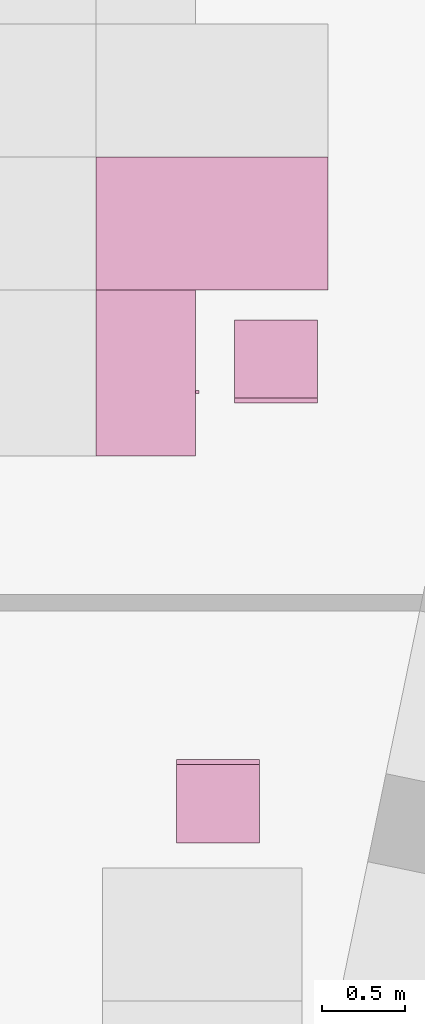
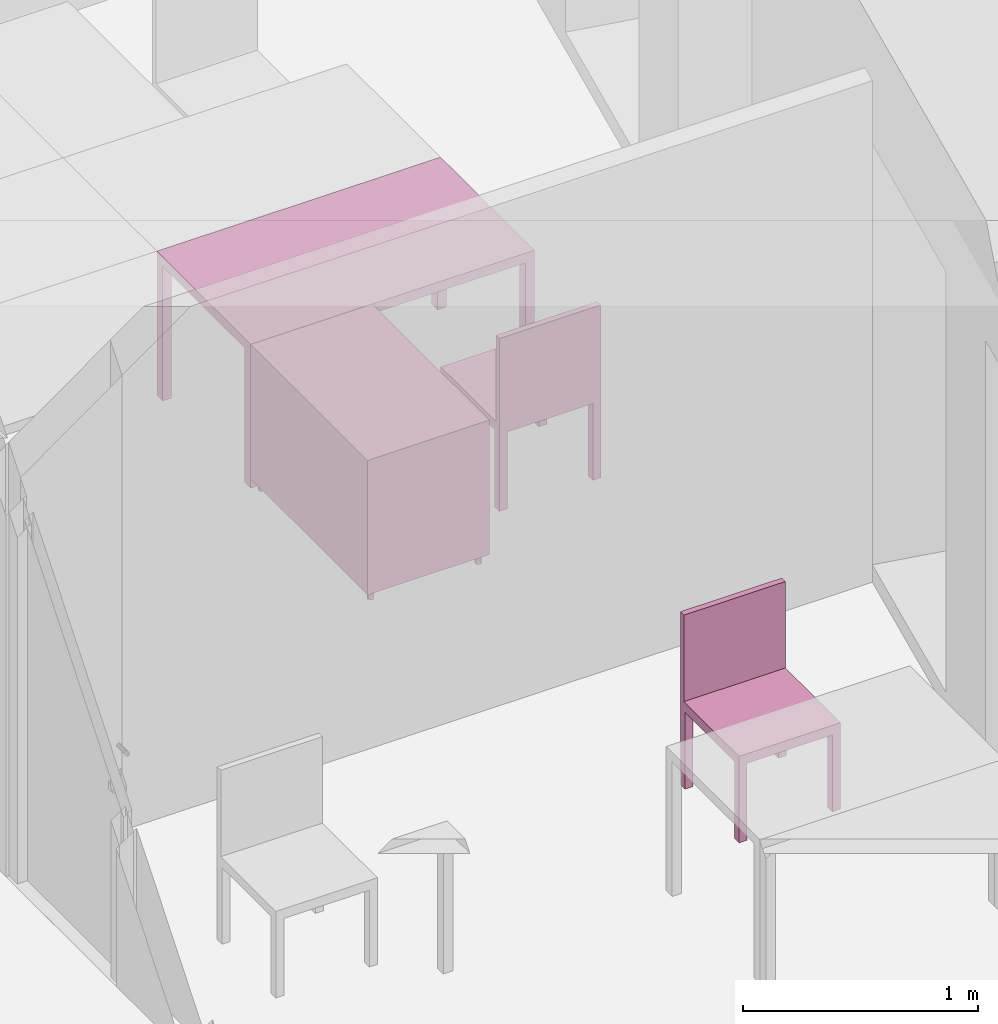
"""IFC4 building model written with IfcOpenShell, lengths in metres."""

import ifcopenshell
import ifcopenshell.guid

model = None  # the IFC model being written
_history = None  # IfcOwnerHistory: only IFC2X3 demands one
_inside = {}  # id of a spatial element -> (the spatial element, [elements in it])
_under = {}  # id of a project, library or spatial element -> (it, [spatial elements below it])
_declared = {}  # id of a project -> (the project, [libraries it declares])
_typed = {}  # id of a type object -> (the type object, [elements of that type])
_made_of = {}  # id of a material, layer set ... -> (it, [elements and type objects made of it])


def new_model(schema):
    """Start an empty IFC model of exactly this schema.

    Asked for "IFC4X3", IfcOpenShell would pick the latest addendum, in which some entities
    have other attributes; the version numbers below select the first issue.
    IFC2X3 requires an IfcOwnerHistory on every rooted entity: one is made here for all.
    """
    global model, _history
    if schema == "IFC4X3":
        model = ifcopenshell.file(schema_version=(4, 3, 0, 0))
    else:
        model = ifcopenshell.file(schema=schema)
    _inside.clear()
    _under.clear()
    _declared.clear()
    _typed.clear()
    _made_of.clear()
    _history = None
    if model.schema == "IFC2X3":
        org = make("IfcOrganization", Name="unknown")
        user = make(
            "IfcPersonAndOrganization",
            ThePerson=make("IfcPerson", FamilyName="unknown"),
            TheOrganization=org,
        )
        app = make(
            "IfcApplication",
            ApplicationDeveloper=org,
            Version="unknown",
            ApplicationFullName="unknown",
            ApplicationIdentifier="unknown",
        )
        _history = make(
            "IfcOwnerHistory",
            OwningUser=user,
            OwningApplication=app,
            ChangeAction="ADDED",
            CreationDate=0,
        )
    return model


def make(cls, **values):
    """One entity of the class cls with the attributes given. An attribute that is None is left unset."""
    return model.create_entity(
        cls, **{name: value for name, value in values.items() if value is not None}
    )


def entity(cls, *values):
    """Any entity or typed value of the class cls, its attributes in the order of the schema. None: left unset."""
    e = model.create_entity(cls)
    for i, value in enumerate(values):
        if value is not None:
            e[i] = value
    return e


def rooted(cls, **values):
    """An entity with a GlobalId (a new one), such as an element, a storey or a relation."""
    return make(cls, GlobalId=ifcopenshell.guid.new(), OwnerHistory=_history, **values)


def si_unit(unit_type, name, prefix=None):
    """IfcSIUnit, for example si_unit("LENGTHUNIT", "METRE", prefix="MILLI")."""
    return make("IfcSIUnit", UnitType=unit_type, Prefix=prefix, Name=name)


def converted_unit(unit_type, name, factor, base, dimensions=None, offset=None):
    """IfcConversionBasedUnit, such as the inch: factor (a typed value) times the base unit."""
    return make(
        "IfcConversionBasedUnit"
        if offset is None
        else "IfcConversionBasedUnitWithOffset",
        ConversionOffset=offset,
        Dimensions=None
        if dimensions is None
        else entity("IfcDimensionalExponents", *dimensions),
        UnitType=unit_type,
        Name=name,
        ConversionFactor=make(
            "IfcMeasureWithUnit", ValueComponent=factor, UnitComponent=base
        ),
    )


def derived_unit(unit_type, elements):
    """IfcDerivedUnit: a product of units, each with its exponent."""
    return make(
        "IfcDerivedUnit",
        Elements=[
            make("IfcDerivedUnitElement", Unit=unit, Exponent=power)
            for unit, power in elements
        ],
        UnitType=unit_type,
    )


def assignment(units):
    """IfcUnitAssignment: the units of a project."""
    return None if units is None else make("IfcUnitAssignment", Units=units)


def point(xyz):
    """IfcCartesianPoint."""
    return None if xyz is None else make("IfcCartesianPoint", Coordinates=xyz)


def direction(xyz):
    """IfcDirection."""
    return None if xyz is None else make("IfcDirection", DirectionRatios=xyz)


def frame(location, z_axis=None, x_axis=None):
    """IfcAxis2Placement3D, a coordinate frame: its origin and axes. An axis left out is left unset."""
    return make(
        "IfcAxis2Placement3D",
        Location=point(location),
        Axis=direction(z_axis),
        RefDirection=direction(x_axis),
    )


def origin():
    """The frame at (0, 0, 0) with its axes left unset."""
    return frame((0.0, 0.0, 0.0))


def place(relative_to, where):
    """IfcLocalPlacement: puts the frame where relative to a parent placement (None: the world)."""
    return make(
        "IfcLocalPlacement", PlacementRelTo=relative_to, RelativePlacement=where
    )


def context(
    kind, dimensions, precision=None, world=None, true_north=None, identifier=None
):
    """IfcGeometricRepresentationContext, for example the 3D "Model" context."""
    return make(
        "IfcGeometricRepresentationContext",
        ContextIdentifier=identifier,
        ContextType=kind,
        CoordinateSpaceDimension=dimensions,
        Precision=precision,
        WorldCoordinateSystem=world,
        TrueNorth=true_north,
    )


def subcontext(parent, identifier, kind, view, scale=None):
    """IfcGeometricRepresentationSubContext, for example "Body" below "Model"."""
    return make(
        "IfcGeometricRepresentationSubContext",
        ContextIdentifier=identifier,
        ContextType=kind,
        ParentContext=parent,
        TargetScale=scale,
        TargetView=view,
    )


def project(units=None, contexts=None):
    """IfcProject with its units and contexts."""
    return rooted(
        "IfcProject",
        Name="project",
        RepresentationContexts=contexts,
        UnitsInContext=assignment(units),
    )


def spatial(cls, under=None, at=None, **own):
    """A site, building, storey or space (cls), placed at a placement, below another one or the project."""
    s = rooted(cls, ObjectPlacement=at, **own)
    if under is not None:
        _under.setdefault(under.id(), (under, []))[1].append(s)
    return s


def faces_of(points, faces, orient=None, outer=None):
    """IfcFace entities. A face is a list of loops; a loop is a list of indices into points, from 0.

    orient and outer hold one flag for each loop. By default every Orientation is true, the
    first loop of a face is its IfcFaceOuterBound and the others are IfcFaceBound.
    """
    made = []
    for i, loops in enumerate(faces):
        bounds = []
        for j, loop in enumerate(loops):
            is_outer = j == 0 if outer is None else outer[i][j]
            bounds.append(
                make(
                    "IfcFaceOuterBound" if is_outer else "IfcFaceBound",
                    Bound=make("IfcPolyLoop", Polygon=[points[k] for k in loop]),
                    Orientation=True if orient is None else orient[i][j],
                )
            )
        made.append(make("IfcFace", Bounds=bounds))
    return made


def faceted_brep(points, faces, orient=None, outer=None, voids=None):
    """IfcFacetedBrep: a solid bounded by flat faces; with voids (closed shells), ...WithVoids."""
    shared = [point(p) for p in points]
    hull = make("IfcClosedShell", CfsFaces=faces_of(shared, faces, orient, outer))
    if voids is None:
        return make("IfcFacetedBrep", Outer=hull)
    return make(
        "IfcFacetedBrepWithVoids",
        Outer=hull,
        Voids=[
            make(cls, CfsFaces=faces_of(shared, fs, o, b)) for cls, fs, o, b in voids
        ],
    )


def shape(context_of_items, identifier, shape_type, items):
    """IfcShapeRepresentation: the items that make up one representation, for example the "Body"."""
    return make(
        "IfcShapeRepresentation",
        ContextOfItems=context_of_items,
        RepresentationIdentifier=identifier,
        RepresentationType=shape_type,
        Items=items,
    )


def made_of(thing, what):
    """Note that an element or type object is made of a material, layer set ...; save() writes the relation."""
    if what is not None:
        _made_of.setdefault(what.id(), (what, []))[1].append(thing)
    return thing


def element(
    cls,
    number,
    at=None,
    inside=None,
    cuts=None,
    type_object=None,
    material=None,
    context=None,
    identifier="Body",
    shape_type=None,
    held_by="IfcProductDefinitionShape",
    body=None,
    shapes=None,
    **own,
):
    """One element of the class cls, such as IfcWall. Its Tag is "e" and its number.

    at: its placement. inside: the storey or other place that contains it. cuts: it is an
    opening in that element (IfcRelVoidsElement). A single representation is given by context,
    identifier, shape_type and body (its items); several are given by shapes. held_by: the class
    of the entity that holds the representations. save() writes the other relations.
    """
    e = rooted(cls, Tag="e%d" % number, ObjectPlacement=at, **own)
    if body is not None:
        shapes = [shape(context, identifier, shape_type, body)]
    if shapes is not None:
        e.Representation = make(held_by, Representations=shapes)
    if inside is not None:
        _inside.setdefault(inside.id(), (inside, []))[1].append(e)
    if cuts is not None:
        rooted(
            "IfcRelVoidsElement", RelatingBuildingElement=cuts, RelatedOpeningElement=e
        )
    if type_object is not None:
        _typed.setdefault(type_object.id(), (type_object, []))[1].append(e)
    return made_of(e, material)


def aggregate(whole, parts):
    """IfcRelAggregates: a whole, such as a stair, and the parts it consists of."""
    return rooted("IfcRelAggregates", RelatingObject=whole, RelatedObjects=parts)


def save(model, path):
    """Write the relations noted so far, then the file.

    IfcRelAggregates (storeys below a building ...), IfcRelContainedInSpatialStructure (elements
    in a storey), IfcRelDefinesByType, IfcRelAssociatesMaterial and IfcRelDeclares: one each for
    every whole, place, type object, material and project.
    """
    for whole, parts in _under.values():
        aggregate(whole, parts)
    for where, things in _inside.values():
        rooted(
            "IfcRelContainedInSpatialStructure",
            RelatedElements=things,
            RelatingStructure=where,
        )
    for kind, things in _typed.values():
        rooted("IfcRelDefinesByType", RelatedObjects=things, RelatingType=kind)
    for what, things in _made_of.values():
        rooted("IfcRelAssociatesMaterial", RelatedObjects=things, RelatingMaterial=what)
    for by, libraries in _declared.values():
        rooted("IfcRelDeclares", RelatingContext=by, RelatedDefinitions=libraries)
    model.write(path)


model = new_model("IFC4")

# Units and contexts
model_context = context("Model", 3, precision=1e-05, world=origin())
body_context = subcontext(model_context, "Body", "Model", "MODEL_VIEW")
ifc_project = project(units=[si_unit("LENGTHUNIT", "METRE"), si_unit("AREAUNIT", "SQUARE_METRE"), si_unit("VOLUMEUNIT", "CUBIC_METRE"), si_unit("MASSUNIT", "GRAM", prefix="KILO"), converted_unit("PLANEANGLEUNIT", "DEGREE", entity("IfcPlaneAngleMeasure", 0.0174532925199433), si_unit("PLANEANGLEUNIT", "RADIAN"), dimensions=[0, 0, 0, 0, 0, 0, 0]), derived_unit("THERMALTRANSMITTANCEUNIT", [(si_unit("POWERUNIT", "WATT"), 1), (si_unit("THERMODYNAMICTEMPERATUREUNIT", "KELVIN"), -1), (si_unit("LENGTHUNIT", "METRE"), -2)]), derived_unit("VOLUMETRICFLOWRATEUNIT", [(si_unit("LENGTHUNIT", "METRE"), 3), (converted_unit("TIMEUNIT", "hour", entity("IfcTimeMeasure", 3600.0), si_unit("TIMEUNIT", "SECOND"), dimensions=[0, 0, 1, 0, 0, 0, 0]), -1), (si_unit("LENGTHUNIT", "METRE"), -1)])], contexts=[model_context])

# Building, storeys
building_placement = place(None, origin())
building = spatial("IfcBuilding", under=ifc_project, at=building_placement, Name="HABITATGE PLURIFAMILIAR", CompositionType="ELEMENT")
storey_1_placement = place(building_placement, frame((0.0, 0.0, 6.25)))
storey_1 = spatial("IfcBuildingStorey", under=building, at=storey_1_placement, Name="PLANTA PRIMERA", CompositionType="ELEMENT", Elevation=6.25)
storey_2_placement = place(storey_1_placement, frame((0.0, 0.0, 3.35)))
storey_2 = spatial("IfcBuildingStorey", under=storey_1, at=storey_2_placement, Name="NOU", CompositionType="PARTIAL")

# Furniture
furniture_1_placement = place(storey_2_placement, frame((423.753213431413, 24.6290818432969, -3.35)))
element("IfcFurniture", 1, at=furniture_1_placement, inside=storey_2, Name="Taula 140X80_P1", context=body_context, shape_type="Brep", body=[
    faceted_brep([(1.35357768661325, 0.750069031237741, 0.0), (1.39732768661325, 0.750069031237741, 0.0), (1.39732768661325, 0.800069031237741, 0.0), (1.35357768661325, 0.800069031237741, 0.0), (1.35357768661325, 0.800069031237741, 0.7), (1.39732768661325, 0.800069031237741, 0.7), (1.39732768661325, 0.750069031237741, 0.7), (1.35357768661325, 0.750069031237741, 0.7)], [[[0, 1, 2, 3]], [[4, 5, 6, 7]], [[3, 4, 7, 0]], [[2, 5, 4, 3]], [[1, 6, 5, 2]], [[0, 7, 6, 1]]], orient=[[False], [False], [False], [False], [False], [False]]),
    faceted_brep([(1.35357768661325, 0.0, 0.0), (1.39732768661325, 0.0, 0.0), (1.39732768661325, 0.05, 0.0), (1.35357768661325, 0.05, 0.0), (1.35357768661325, 0.05, 0.7), (1.39732768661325, 0.05, 0.7), (1.39732768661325, 0.0, 0.7), (1.35357768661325, 0.0, 0.7)], [[[0, 1, 2, 3]], [[4, 5, 6, 7]], [[3, 4, 7, 0]], [[2, 5, 4, 3]], [[1, 6, 5, 2]], [[0, 7, 6, 1]]], orient=[[False], [False], [False], [False], [False], [False]]),
    faceted_brep([(0.0, 0.0, 0.7), (1.39732768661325, 0.0, 0.7), (1.39732768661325, 0.800069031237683, 0.7), (0.0, 0.800069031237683, 0.7), (0.0, 0.800069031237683, 0.75), (1.39732768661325, 0.800069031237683, 0.75), (1.39732768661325, 0.0, 0.75), (0.0, 0.0, 0.75)], [[[0, 1, 2, 3]], [[4, 5, 6, 7]], [[3, 4, 7, 0]], [[2, 5, 4, 3]], [[1, 6, 5, 2]], [[0, 7, 6, 1]]], orient=[[False], [False], [False], [False], [False], [False]]),
    faceted_brep([(0.0, 0.750069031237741, 0.0), (0.04375, 0.750069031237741, 0.0), (0.04375, 0.800069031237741, 0.0), (0.0, 0.800069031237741, 0.0), (0.0, 0.800069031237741, 0.7), (0.04375, 0.800069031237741, 0.7), (0.04375, 0.750069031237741, 0.7), (0.0, 0.750069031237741, 0.7)], [[[0, 1, 2, 3]], [[4, 5, 6, 7]], [[3, 4, 7, 0]], [[2, 5, 4, 3]], [[1, 6, 5, 2]], [[0, 7, 6, 1]]], orient=[[False], [False], [False], [False], [False], [False]]),
    faceted_brep([(0.0, 0.0, 0.0), (0.04375, 0.0, 0.0), (0.04375, 0.05, 0.0), (0.0, 0.05, 0.0), (0.0, 0.05, 0.7), (0.04375, 0.05, 0.7), (0.04375, 0.0, 0.7), (0.0, 0.0, 0.7)], [[[0, 1, 2, 3]], [[4, 5, 6, 7]], [[3, 4, 7, 0]], [[2, 5, 4, 3]], [[1, 6, 5, 2]], [[0, 7, 6, 1]]], orient=[[False], [False], [False], [False], [False], [False]]),
])
furniture_2_placement = place(storey_2_placement, frame((423.753213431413, 23.6321359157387, -3.35)))
element("IfcFurniture", 2, at=furniture_2_placement, inside=storey_2, Name="Taula 100X60_P1", context=body_context, shape_type="Brep", body=[
    faceted_brep([(0.0, 1.00000000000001, 0.05), (0.600000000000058, 1.00000000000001, 0.05), (0.600000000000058, 1.00000000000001, 0.07), (0.0, 1.00000000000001, 0.07), (0.600000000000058, 0.0, 0.05), (0.600000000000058, 0.0, 0.07), (0.0, 0.0, 0.05), (0.0, 0.0, 0.07)], [[[0, 1, 2, 3]], [[1, 4, 5, 2]], [[4, 6, 7, 5]], [[6, 0, 3, 7]], [[0, 6, 4, 1]], [[3, 2, 5, 7]]], orient=[[False], [False], [False], [False], [False], [False]]),
    faceted_brep([(0.580000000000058, 1.00000000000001, 0.35), (0.0, 1.00000000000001, 0.35), (0.0, 0.0, 0.35), (0.580000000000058, 0.0, 0.35), (0.0, 1.00000000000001, 0.37), (0.580000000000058, 1.00000000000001, 0.37), (0.580000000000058, 0.0, 0.37), (0.0, 0.0, 0.37)], [[[0, 1, 2, 3]], [[4, 5, 6, 7]], [[1, 0, 5, 4]], [[2, 1, 4, 7]], [[3, 2, 7, 6]], [[0, 3, 6, 5]]], orient=[[False], [False], [False], [False], [False], [False]]),
    faceted_brep([(0.580000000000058, 0.490000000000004, 0.75), (0.580000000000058, 0.490000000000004, 0.05), (0.600000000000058, 0.490000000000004, 0.05), (0.600000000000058, 0.490000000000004, 0.75), (0.580000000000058, 0.0, 0.05), (0.600000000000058, 0.0, 0.05), (0.580000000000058, 0.0, 0.75), (0.600000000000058, 0.0, 0.75)], [[[0, 1, 2, 3]], [[1, 4, 5, 2]], [[4, 6, 7, 5]], [[6, 0, 3, 7]], [[0, 6, 4, 1]], [[3, 2, 5, 7]]], orient=[[False], [False], [False], [False], [False], [False]]),
    faceted_brep([(0.0, 0.980000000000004, 0.75), (0.0, 0.980000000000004, 0.0499999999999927), (0.0, 1.0, 0.0499999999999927), (0.0, 1.0, 0.75), (0.600000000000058, 0.980000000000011, 0.05), (0.600000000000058, 1.00000000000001, 0.05), (0.600000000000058, 0.980000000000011, 0.75), (0.600000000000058, 1.00000000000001, 0.75)], [[[0, 1, 2, 3]], [[1, 4, 5, 2]], [[4, 6, 7, 5]], [[6, 0, 3, 7]], [[0, 6, 4, 1]], [[3, 2, 5, 7]]], orient=[[False], [False], [False], [False], [False], [False]]),
    faceted_brep([(0.0, 0.470000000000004, 0.75), (0.0, 0.470000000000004, 0.0499999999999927), (0.0, 0.490000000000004, 0.0499999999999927), (0.0, 0.490000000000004, 0.75), (0.600000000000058, 0.470000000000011, 0.05), (0.600000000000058, 0.490000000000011, 0.05), (0.600000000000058, 0.470000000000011, 0.75), (0.600000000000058, 0.490000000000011, 0.75)], [[[0, 1, 2, 3]], [[1, 4, 5, 2]], [[4, 6, 7, 5]], [[6, 0, 3, 7]], [[0, 6, 4, 1]], [[3, 2, 5, 7]]], orient=[[False], [False], [False], [False], [False], [False]]),
    faceted_brep([(0.0, 0.47, 0.75000000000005), (0.0, 0.47, 0.0499999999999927), (0.0, 0.490000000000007, 0.0499999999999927), (0.0, 0.490000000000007, 0.75000000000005), (0.58, 0.469999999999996, 0.0499999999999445), (0.58, 0.490000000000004, 0.0499999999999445), (0.580000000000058, 0.469999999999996, 0.750000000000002), (0.580000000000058, 0.490000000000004, 0.750000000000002)], [[[0, 1, 2, 3]], [[1, 4, 5, 2]], [[4, 6, 7, 5]], [[6, 0, 3, 7]], [[0, 6, 4, 1]], [[3, 2, 5, 7]]], orient=[[False], [False], [False], [False], [False], [False]]),
    faceted_brep([(0.0, 0.0, 0.75), (0.0, 0.0, 0.0499999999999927), (0.0, 0.0200000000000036, 0.0499999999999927), (0.0, 0.0200000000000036, 0.75), (0.600000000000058, 0.0, 0.05), (0.600000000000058, 0.0200000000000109, 0.05), (0.600000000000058, 0.0, 0.75), (0.600000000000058, 0.0200000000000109, 0.75)], [[[0, 1, 2, 3]], [[1, 4, 5, 2]], [[4, 6, 7, 5]], [[6, 0, 3, 7]], [[0, 6, 4, 1]], [[3, 2, 5, 7]]], orient=[[False], [False], [False], [False], [False], [False]]),
    faceted_brep([(0.0, 1.00000000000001, 0.73), (0.600000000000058, 1.00000000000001, 0.73), (0.600000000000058, 1.00000000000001, 0.75), (0.0, 1.00000000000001, 0.75), (0.600000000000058, 0.0, 0.73), (0.600000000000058, 0.0, 0.75), (0.0, 0.0, 0.73), (0.0, 0.0, 0.75)], [[[0, 1, 2, 3]], [[1, 4, 5, 2]], [[4, 6, 7, 5]], [[6, 0, 3, 7]], [[0, 6, 4, 1]], [[3, 2, 5, 7]]], orient=[[False], [False], [False], [False], [False], [False]]),
    faceted_brep([(0.0, 0.980000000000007, 0.75), (0.0, 0.980000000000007, 0.05), (0.0200000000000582, 0.980000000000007, 0.05), (0.0200000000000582, 0.980000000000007, 0.75), (0.0, 0.0, 0.05), (0.0200000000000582, 0.0, 0.05), (0.0, 0.0, 0.75), (0.0200000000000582, 0.0, 0.75)], [[[0, 1, 2, 3]], [[1, 4, 5, 2]], [[4, 6, 7, 5]], [[6, 0, 3, 7]], [[0, 6, 4, 1]], [[3, 2, 5, 7]]], orient=[[False], [False], [False], [False], [False], [False]]),
    faceted_brep([(0.600000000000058, 0.37442032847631, 0.35), (0.620000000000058, 0.37442032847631, 0.35), (0.620000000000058, 0.39442032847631, 0.35), (0.600000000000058, 0.39442032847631, 0.35), (0.600000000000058, 0.39442032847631, 0.45), (0.620000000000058, 0.39442032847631, 0.45), (0.620000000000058, 0.37442032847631, 0.45), (0.600000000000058, 0.37442032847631, 0.45)], [[[0, 1, 2, 3]], [[4, 5, 6, 7]], [[3, 4, 7, 0]], [[2, 5, 4, 3]], [[1, 6, 5, 2]], [[0, 7, 6, 1]]], orient=[[False], [False], [False], [False], [False], [False]]),
    faceted_brep([(0.0361788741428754, 0.950063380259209, 0.0), (0.0387728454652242, 0.950290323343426, 0.0), (0.0412880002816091, 0.950964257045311, 0.0), (0.0436479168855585, 0.95206470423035, 0.0), (0.0457808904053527, 0.953558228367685, 0.0), (0.0476221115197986, 0.955399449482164, 0.0), (0.0491156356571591, 0.957532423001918, 0.0), (0.0502160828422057, 0.959892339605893, 0.0), (0.0508900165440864, 0.962407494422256, 0.0), (0.0511169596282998, 0.96500146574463, 0.0), (0.0508900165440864, 0.967595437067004, 0.0), (0.0502160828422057, 0.970110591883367, 0.0), (0.0491156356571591, 0.972470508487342, 0.0), (0.0476221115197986, 0.974603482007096, 0.0), (0.0457808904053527, 0.976444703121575, 0.0), (0.0436479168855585, 0.97793822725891, 0.0), (0.0412880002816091, 0.979038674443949, 0.0), (0.0387728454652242, 0.979712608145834, 0.0), (0.0361788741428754, 0.979939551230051, 0.0), (0.0335849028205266, 0.979712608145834, 0.0), (0.0310697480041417, 0.979038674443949, 0.0), (0.0287098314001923, 0.97793822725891, 0.0), (0.0265768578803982, 0.976444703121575, 0.0), (0.0247356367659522, 0.974603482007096, 0.0), (0.0232421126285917, 0.972470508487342, 0.0), (0.0221416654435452, 0.970110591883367, 0.0), (0.0214677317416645, 0.967595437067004, 0.0), (0.021240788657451, 0.96500146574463, 0.0), (0.0214677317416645, 0.962407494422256, 0.0), (0.0221416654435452, 0.959892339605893, 0.0), (0.0232421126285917, 0.957532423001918, 0.0), (0.0247356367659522, 0.955399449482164, 0.0), (0.0265768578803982, 0.953558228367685, 0.0), (0.0287098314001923, 0.95206470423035, 0.0), (0.0310697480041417, 0.950964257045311, 0.0), (0.0335849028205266, 0.950290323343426, 0.0), (0.0361788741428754, 0.950063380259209, 0.05), (0.0335849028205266, 0.950290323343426, 0.05), (0.0310697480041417, 0.950964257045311, 0.05), (0.0287098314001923, 0.95206470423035, 0.05), (0.0265768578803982, 0.953558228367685, 0.05), (0.0247356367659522, 0.955399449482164, 0.05), (0.0232421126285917, 0.957532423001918, 0.05), (0.0221416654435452, 0.959892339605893, 0.05), (0.0214677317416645, 0.962407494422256, 0.05), (0.021240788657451, 0.96500146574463, 0.05), (0.0214677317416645, 0.967595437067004, 0.05), (0.0221416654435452, 0.970110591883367, 0.05), (0.0232421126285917, 0.972470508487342, 0.05), (0.0247356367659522, 0.974603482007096, 0.05), (0.0265768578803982, 0.976444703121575, 0.05), (0.0287098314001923, 0.97793822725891, 0.05), (0.0310697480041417, 0.979038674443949, 0.05), (0.0335849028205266, 0.979712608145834, 0.05), (0.0361788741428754, 0.979939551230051, 0.05), (0.0387728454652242, 0.979712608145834, 0.05), (0.0412880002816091, 0.979038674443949, 0.05), (0.0436479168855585, 0.97793822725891, 0.05), (0.0457808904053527, 0.976444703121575, 0.05), (0.0476221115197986, 0.974603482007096, 0.05), (0.0491156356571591, 0.972470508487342, 0.05), (0.0502160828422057, 0.970110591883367, 0.05), (0.0508900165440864, 0.967595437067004, 0.05), (0.0511169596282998, 0.96500146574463, 0.05), (0.0508900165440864, 0.962407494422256, 0.05), (0.0502160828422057, 0.959892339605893, 0.05), (0.0491156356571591, 0.957532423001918, 0.05), (0.0476221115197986, 0.955399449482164, 0.05), (0.0457808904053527, 0.953558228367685, 0.05), (0.0436479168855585, 0.95206470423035, 0.05), (0.0412880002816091, 0.950964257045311, 0.05), (0.0387728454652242, 0.950290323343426, 0.05)], [[[0, 1, 2, 3, 4, 5, 6, 7, 8, 9, 10, 11, 12, 13, 14, 15, 16, 17, 18, 19, 20, 21, 22, 23, 24, 25, 26, 27, 28, 29, 30, 31, 32, 33, 34, 35]], [[36, 37, 38, 39, 40, 41, 42, 43, 44, 45, 46, 47, 48, 49, 50, 51, 52, 53, 54, 55, 56, 57, 58, 59, 60, 61, 62, 63, 64, 65, 66, 67, 68, 69, 70, 71]], [[1, 0, 36, 71]], [[2, 1, 71, 70]], [[3, 2, 70, 69]], [[4, 3, 69, 68]], [[5, 4, 68, 67]], [[6, 5, 67, 66]], [[7, 6, 66, 65]], [[8, 7, 65, 64]], [[9, 8, 64, 63]], [[10, 9, 63, 62]], [[11, 10, 62, 61]], [[12, 11, 61, 60]], [[13, 12, 60, 59]], [[14, 13, 59, 58]], [[15, 14, 58, 57]], [[16, 15, 57, 56]], [[17, 16, 56, 55]], [[18, 17, 55, 54]], [[19, 18, 54, 53]], [[20, 19, 53, 52]], [[21, 20, 52, 51]], [[22, 21, 51, 50]], [[23, 22, 50, 49]], [[24, 23, 49, 48]], [[25, 24, 48, 47]], [[26, 25, 47, 46]], [[27, 26, 46, 45]], [[28, 27, 45, 44]], [[29, 28, 44, 43]], [[30, 29, 43, 42]], [[31, 30, 42, 41]], [[32, 31, 41, 40]], [[33, 32, 40, 39]], [[34, 33, 39, 38]], [[35, 34, 38, 37]], [[0, 35, 37, 36]]], orient=[[False], [False], [False], [False], [False], [False], [False], [False], [False], [False], [False], [False], [False], [False], [False], [False], [False], [False], [False], [False], [False], [False], [False], [False], [False], [False], [False], [False], [False], [False], [False], [False], [False], [False], [False], [False], [False], [False]]),
    faceted_brep([(0.566178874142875, 0.950063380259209, 0.0), (0.568772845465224, 0.95029032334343, 0.0), (0.571288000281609, 0.950964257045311, 0.0), (0.573647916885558, 0.95206470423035, 0.0), (0.575780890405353, 0.953558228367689, 0.0), (0.577622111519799, 0.955399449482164, 0.0), (0.579115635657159, 0.957532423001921, 0.0), (0.580216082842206, 0.959892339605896, 0.0), (0.580890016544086, 0.962407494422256, 0.0), (0.5811169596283, 0.965001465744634, 0.0), (0.580890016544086, 0.967595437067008, 0.0), (0.580216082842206, 0.970110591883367, 0.0), (0.579115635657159, 0.972470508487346, 0.0), (0.577622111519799, 0.9746034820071, 0.0), (0.575780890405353, 0.976444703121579, 0.0), (0.573647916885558, 0.97793822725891, 0.0), (0.571288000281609, 0.979038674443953, 0.0), (0.568772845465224, 0.979712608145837, 0.0), (0.566178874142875, 0.979939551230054, 0.0), (0.563584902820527, 0.979712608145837, 0.0), (0.561069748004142, 0.979038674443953, 0.0), (0.558709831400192, 0.97793822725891, 0.0), (0.556576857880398, 0.976444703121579, 0.0), (0.554735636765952, 0.9746034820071, 0.0), (0.553242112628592, 0.972470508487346, 0.0), (0.552141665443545, 0.970110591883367, 0.0), (0.551467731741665, 0.967595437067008, 0.0), (0.551240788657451, 0.965001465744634, 0.0), (0.551467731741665, 0.962407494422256, 0.0), (0.552141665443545, 0.959892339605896, 0.0), (0.553242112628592, 0.957532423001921, 0.0), (0.554735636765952, 0.955399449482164, 0.0), (0.556576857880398, 0.953558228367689, 0.0), (0.558709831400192, 0.95206470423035, 0.0), (0.561069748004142, 0.950964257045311, 0.0), (0.563584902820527, 0.95029032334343, 0.0), (0.566178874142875, 0.950063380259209, 0.05), (0.563584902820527, 0.95029032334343, 0.05), (0.561069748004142, 0.950964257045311, 0.05), (0.558709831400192, 0.95206470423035, 0.05), (0.556576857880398, 0.953558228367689, 0.05), (0.554735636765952, 0.955399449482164, 0.05), (0.553242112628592, 0.957532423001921, 0.05), (0.552141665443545, 0.959892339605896, 0.05), (0.551467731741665, 0.962407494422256, 0.05), (0.551240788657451, 0.965001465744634, 0.05), (0.551467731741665, 0.967595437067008, 0.05), (0.552141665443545, 0.970110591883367, 0.05), (0.553242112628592, 0.972470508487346, 0.05), (0.554735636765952, 0.9746034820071, 0.05), (0.556576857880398, 0.976444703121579, 0.05), (0.558709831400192, 0.97793822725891, 0.05), (0.561069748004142, 0.979038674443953, 0.05), (0.563584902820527, 0.979712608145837, 0.05), (0.566178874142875, 0.979939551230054, 0.05), (0.568772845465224, 0.979712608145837, 0.05), (0.571288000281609, 0.979038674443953, 0.05), (0.573647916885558, 0.97793822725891, 0.05), (0.575780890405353, 0.976444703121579, 0.05), (0.577622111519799, 0.9746034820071, 0.05), (0.579115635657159, 0.972470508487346, 0.05), (0.580216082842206, 0.970110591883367, 0.05), (0.580890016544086, 0.967595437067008, 0.05), (0.5811169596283, 0.965001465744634, 0.05), (0.580890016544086, 0.962407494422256, 0.05), (0.580216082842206, 0.959892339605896, 0.05), (0.579115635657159, 0.957532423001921, 0.05), (0.577622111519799, 0.955399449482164, 0.05), (0.575780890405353, 0.953558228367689, 0.05), (0.573647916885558, 0.95206470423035, 0.05), (0.571288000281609, 0.950964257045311, 0.05), (0.568772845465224, 0.95029032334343, 0.05)], [[[0, 1, 2, 3, 4, 5, 6, 7, 8, 9, 10, 11, 12, 13, 14, 15, 16, 17, 18, 19, 20, 21, 22, 23, 24, 25, 26, 27, 28, 29, 30, 31, 32, 33, 34, 35]], [[36, 37, 38, 39, 40, 41, 42, 43, 44, 45, 46, 47, 48, 49, 50, 51, 52, 53, 54, 55, 56, 57, 58, 59, 60, 61, 62, 63, 64, 65, 66, 67, 68, 69, 70, 71]], [[1, 0, 36, 71]], [[2, 1, 71, 70]], [[3, 2, 70, 69]], [[4, 3, 69, 68]], [[5, 4, 68, 67]], [[6, 5, 67, 66]], [[7, 6, 66, 65]], [[8, 7, 65, 64]], [[9, 8, 64, 63]], [[10, 9, 63, 62]], [[11, 10, 62, 61]], [[12, 11, 61, 60]], [[13, 12, 60, 59]], [[14, 13, 59, 58]], [[15, 14, 58, 57]], [[16, 15, 57, 56]], [[17, 16, 56, 55]], [[18, 17, 55, 54]], [[19, 18, 54, 53]], [[20, 19, 53, 52]], [[21, 20, 52, 51]], [[22, 21, 51, 50]], [[23, 22, 50, 49]], [[24, 23, 49, 48]], [[25, 24, 48, 47]], [[26, 25, 47, 46]], [[27, 26, 46, 45]], [[28, 27, 45, 44]], [[29, 28, 44, 43]], [[30, 29, 43, 42]], [[31, 30, 42, 41]], [[32, 31, 41, 40]], [[33, 32, 40, 39]], [[34, 33, 39, 38]], [[35, 34, 38, 37]], [[0, 35, 37, 36]]], orient=[[False], [False], [False], [False], [False], [False], [False], [False], [False], [False], [False], [False], [False], [False], [False], [False], [False], [False], [False], [False], [False], [False], [False], [False], [False], [False], [False], [False], [False], [False], [False], [False], [False], [False], [False], [False], [False], [False]]),
    faceted_brep([(0.565, 0.0200170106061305, 0.0), (0.567593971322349, 0.0202439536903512, 0.0), (0.570109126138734, 0.0209178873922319, 0.0), (0.572469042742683, 0.0220183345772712, 0.0), (0.574602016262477, 0.0235118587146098, 0.0), (0.576443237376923, 0.0253530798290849, 0.0), (0.577936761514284, 0.0274860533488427, 0.0), (0.57903720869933, 0.0298459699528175, 0.0), (0.579711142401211, 0.032361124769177, 0.0), (0.579938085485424, 0.0349550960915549, 0.0), (0.579711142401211, 0.0375490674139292, 0.0), (0.57903720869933, 0.0400642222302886, 0.0), (0.577936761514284, 0.0424241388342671, 0.0), (0.576443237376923, 0.0445571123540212, 0.0), (0.574602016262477, 0.0463983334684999, 0.0), (0.572469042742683, 0.0478918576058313, 0.0), (0.570109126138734, 0.0489923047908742, 0.0), (0.567593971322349, 0.0496662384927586, 0.0), (0.565, 0.0498931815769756, 0.0), (0.562406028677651, 0.0496662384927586, 0.0), (0.559890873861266, 0.0489923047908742, 0.0), (0.557530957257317, 0.0478918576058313, 0.0), (0.555397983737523, 0.0463983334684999, 0.0), (0.553556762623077, 0.0445571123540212, 0.0), (0.552063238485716, 0.0424241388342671, 0.0), (0.55096279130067, 0.0400642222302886, 0.0), (0.550288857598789, 0.0375490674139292, 0.0), (0.550061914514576, 0.0349550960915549, 0.0), (0.550288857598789, 0.032361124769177, 0.0), (0.55096279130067, 0.0298459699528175, 0.0), (0.552063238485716, 0.0274860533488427, 0.0), (0.553556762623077, 0.0253530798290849, 0.0), (0.555397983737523, 0.0235118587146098, 0.0), (0.557530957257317, 0.0220183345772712, 0.0), (0.559890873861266, 0.0209178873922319, 0.0), (0.562406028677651, 0.0202439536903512, 0.0), (0.565, 0.0200170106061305, 0.05), (0.562406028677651, 0.0202439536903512, 0.05), (0.559890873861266, 0.0209178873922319, 0.05), (0.557530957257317, 0.0220183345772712, 0.05), (0.555397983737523, 0.0235118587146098, 0.05), (0.553556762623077, 0.0253530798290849, 0.05), (0.552063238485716, 0.0274860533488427, 0.05), (0.55096279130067, 0.0298459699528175, 0.05), (0.550288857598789, 0.032361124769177, 0.05), (0.550061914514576, 0.0349550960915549, 0.05), (0.550288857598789, 0.0375490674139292, 0.05), (0.55096279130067, 0.0400642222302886, 0.05), (0.552063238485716, 0.0424241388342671, 0.05), (0.553556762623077, 0.0445571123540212, 0.05), (0.555397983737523, 0.0463983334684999, 0.05), (0.557530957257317, 0.0478918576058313, 0.05), (0.559890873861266, 0.0489923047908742, 0.05), (0.562406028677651, 0.0496662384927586, 0.05), (0.565, 0.0498931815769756, 0.05), (0.567593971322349, 0.0496662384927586, 0.05), (0.570109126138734, 0.0489923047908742, 0.05), (0.572469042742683, 0.0478918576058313, 0.05), (0.574602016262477, 0.0463983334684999, 0.05), (0.576443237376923, 0.0445571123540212, 0.05), (0.577936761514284, 0.0424241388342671, 0.05), (0.57903720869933, 0.0400642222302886, 0.05), (0.579711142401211, 0.0375490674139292, 0.05), (0.579938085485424, 0.0349550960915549, 0.05), (0.579711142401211, 0.032361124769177, 0.05), (0.57903720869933, 0.0298459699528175, 0.05), (0.577936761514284, 0.0274860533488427, 0.05), (0.576443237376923, 0.0253530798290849, 0.05), (0.574602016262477, 0.0235118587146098, 0.05), (0.572469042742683, 0.0220183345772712, 0.05), (0.570109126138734, 0.0209178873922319, 0.05), (0.567593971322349, 0.0202439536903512, 0.05)], [[[0, 1, 2, 3, 4, 5, 6, 7, 8, 9, 10, 11, 12, 13, 14, 15, 16, 17, 18, 19, 20, 21, 22, 23, 24, 25, 26, 27, 28, 29, 30, 31, 32, 33, 34, 35]], [[36, 37, 38, 39, 40, 41, 42, 43, 44, 45, 46, 47, 48, 49, 50, 51, 52, 53, 54, 55, 56, 57, 58, 59, 60, 61, 62, 63, 64, 65, 66, 67, 68, 69, 70, 71]], [[1, 0, 36, 71]], [[2, 1, 71, 70]], [[3, 2, 70, 69]], [[4, 3, 69, 68]], [[5, 4, 68, 67]], [[6, 5, 67, 66]], [[7, 6, 66, 65]], [[8, 7, 65, 64]], [[9, 8, 64, 63]], [[10, 9, 63, 62]], [[11, 10, 62, 61]], [[12, 11, 61, 60]], [[13, 12, 60, 59]], [[14, 13, 59, 58]], [[15, 14, 58, 57]], [[16, 15, 57, 56]], [[17, 16, 56, 55]], [[18, 17, 55, 54]], [[19, 18, 54, 53]], [[20, 19, 53, 52]], [[21, 20, 52, 51]], [[22, 21, 51, 50]], [[23, 22, 50, 49]], [[24, 23, 49, 48]], [[25, 24, 48, 47]], [[26, 25, 47, 46]], [[27, 26, 46, 45]], [[28, 27, 45, 44]], [[29, 28, 44, 43]], [[30, 29, 43, 42]], [[31, 30, 42, 41]], [[32, 31, 41, 40]], [[33, 32, 40, 39]], [[34, 33, 39, 38]], [[35, 34, 38, 37]], [[0, 35, 37, 36]]], orient=[[False], [False], [False], [False], [False], [False], [False], [False], [False], [False], [False], [False], [False], [False], [False], [False], [False], [False], [False], [False], [False], [False], [False], [False], [False], [False], [False], [False], [False], [False], [False], [False], [False], [False], [False], [False], [False], [False]]),
    faceted_brep([(0.0349662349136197, 0.0203520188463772, 0.0), (0.0375602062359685, 0.0205789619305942, 0.0), (0.0400753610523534, 0.0212528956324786, 0.0), (0.0424352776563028, 0.0223533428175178, 0.0), (0.044568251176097, 0.0238468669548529, 0.0), (0.0464094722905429, 0.0256880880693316, 0.0), (0.0479029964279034, 0.0278210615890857, 0.0), (0.0490034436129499, 0.0301809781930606, 0.0), (0.0496773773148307, 0.0326961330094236, 0.0), (0.0499043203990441, 0.0352901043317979, 0.0), (0.0496773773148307, 0.0378840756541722, 0.0), (0.0490034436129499, 0.0403992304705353, 0.0), (0.0479029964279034, 0.0427591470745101, 0.0), (0.0464094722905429, 0.0448921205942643, 0.0), (0.044568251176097, 0.046733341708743, 0.0), (0.0424352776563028, 0.048226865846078, 0.0), (0.0400753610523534, 0.0493273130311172, 0.0), (0.0375602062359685, 0.0500012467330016, 0.0), (0.0349662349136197, 0.0502281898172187, 0.0), (0.0323722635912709, 0.0500012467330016, 0.0), (0.029857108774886, 0.0493273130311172, 0.0), (0.0274971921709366, 0.048226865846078, 0.0), (0.0253642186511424, 0.046733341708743, 0.0), (0.0235229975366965, 0.0448921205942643, 0.0), (0.022029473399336, 0.0427591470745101, 0.0), (0.0209290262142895, 0.0403992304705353, 0.0), (0.0202550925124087, 0.0378840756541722, 0.0), (0.0200281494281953, 0.0352901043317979, 0.0), (0.0202550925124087, 0.0326961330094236, 0.0), (0.0209290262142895, 0.0301809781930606, 0.0), (0.022029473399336, 0.0278210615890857, 0.0), (0.0235229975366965, 0.0256880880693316, 0.0), (0.0253642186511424, 0.0238468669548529, 0.0), (0.0274971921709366, 0.0223533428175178, 0.0), (0.029857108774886, 0.0212528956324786, 0.0), (0.0323722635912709, 0.0205789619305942, 0.0), (0.0349662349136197, 0.0203520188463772, 0.05), (0.0323722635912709, 0.0205789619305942, 0.05), (0.029857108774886, 0.0212528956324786, 0.05), (0.0274971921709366, 0.0223533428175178, 0.05), (0.0253642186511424, 0.0238468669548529, 0.05), (0.0235229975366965, 0.0256880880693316, 0.05), (0.022029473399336, 0.0278210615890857, 0.05), (0.0209290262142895, 0.0301809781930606, 0.05), (0.0202550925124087, 0.0326961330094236, 0.05), (0.0200281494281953, 0.0352901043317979, 0.05), (0.0202550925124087, 0.0378840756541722, 0.05), (0.0209290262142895, 0.0403992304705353, 0.05), (0.022029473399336, 0.0427591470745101, 0.05), (0.0235229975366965, 0.0448921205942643, 0.05), (0.0253642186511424, 0.046733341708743, 0.05), (0.0274971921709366, 0.048226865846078, 0.05), (0.029857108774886, 0.0493273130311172, 0.05), (0.0323722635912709, 0.0500012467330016, 0.05), (0.0349662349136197, 0.0502281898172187, 0.05), (0.0375602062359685, 0.0500012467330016, 0.05), (0.0400753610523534, 0.0493273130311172, 0.05), (0.0424352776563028, 0.048226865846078, 0.05), (0.044568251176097, 0.046733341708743, 0.05), (0.0464094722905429, 0.0448921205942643, 0.05), (0.0479029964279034, 0.0427591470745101, 0.05), (0.0490034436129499, 0.0403992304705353, 0.05), (0.0496773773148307, 0.0378840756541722, 0.05), (0.0499043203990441, 0.0352901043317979, 0.05), (0.0496773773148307, 0.0326961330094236, 0.05), (0.0490034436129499, 0.0301809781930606, 0.05), (0.0479029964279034, 0.0278210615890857, 0.05), (0.0464094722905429, 0.0256880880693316, 0.05), (0.044568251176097, 0.0238468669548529, 0.05), (0.0424352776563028, 0.0223533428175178, 0.05), (0.0400753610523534, 0.0212528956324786, 0.05), (0.0375602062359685, 0.0205789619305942, 0.05)], [[[0, 1, 2, 3, 4, 5, 6, 7, 8, 9, 10, 11, 12, 13, 14, 15, 16, 17, 18, 19, 20, 21, 22, 23, 24, 25, 26, 27, 28, 29, 30, 31, 32, 33, 34, 35]], [[36, 37, 38, 39, 40, 41, 42, 43, 44, 45, 46, 47, 48, 49, 50, 51, 52, 53, 54, 55, 56, 57, 58, 59, 60, 61, 62, 63, 64, 65, 66, 67, 68, 69, 70, 71]], [[1, 0, 36, 71]], [[2, 1, 71, 70]], [[3, 2, 70, 69]], [[4, 3, 69, 68]], [[5, 4, 68, 67]], [[6, 5, 67, 66]], [[7, 6, 66, 65]], [[8, 7, 65, 64]], [[9, 8, 64, 63]], [[10, 9, 63, 62]], [[11, 10, 62, 61]], [[12, 11, 61, 60]], [[13, 12, 60, 59]], [[14, 13, 59, 58]], [[15, 14, 58, 57]], [[16, 15, 57, 56]], [[17, 16, 56, 55]], [[18, 17, 55, 54]], [[19, 18, 54, 53]], [[20, 19, 53, 52]], [[21, 20, 52, 51]], [[22, 21, 51, 50]], [[23, 22, 50, 49]], [[24, 23, 49, 48]], [[25, 24, 48, 47]], [[26, 25, 47, 46]], [[27, 26, 46, 45]], [[28, 27, 45, 44]], [[29, 28, 44, 43]], [[30, 29, 43, 42]], [[31, 30, 42, 41]], [[32, 31, 41, 40]], [[33, 32, 40, 39]], [[34, 33, 39, 38]], [[35, 34, 38, 37]], [[0, 35, 37, 36]]], orient=[[False], [False], [False], [False], [False], [False], [False], [False], [False], [False], [False], [False], [False], [False], [False], [False], [False], [False], [False], [False], [False], [False], [False], [False], [False], [False], [False], [False], [False], [False], [False], [False], [False], [False], [False], [False], [False], [False]]),
])
furniture_3_placement = place(storey_2_placement, frame((424.238875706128, 21.3058871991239, -3.34942958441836)))
element("IfcFurniture", 3, at=furniture_3_placement, inside=storey_2, Name="Cadira d'Oficina_P1", context=body_context, shape_type="Brep", body=[
    faceted_brep([(0.0, 0.0, 0.4), (0.5, 0.0, 0.4), (0.5, 0.500000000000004, 0.4), (0.0, 0.500000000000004, 0.4), (0.0, 0.500000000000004, 0.45), (0.5, 0.500000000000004, 0.45), (0.5, 0.0, 0.45), (0.0, 0.0, 0.45)], [[[0, 1, 2, 3]], [[4, 5, 6, 7]], [[3, 4, 7, 0]], [[2, 5, 4, 3]], [[1, 6, 5, 2]], [[0, 7, 6, 1]]], orient=[[False], [False], [False], [False], [False], [False]]),
    faceted_brep([(0.5, 0.460000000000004, 0.0), (0.5, 0.500000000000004, 0.0), (0.46, 0.500000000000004, 0.0), (0.46, 0.460000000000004, 0.0), (0.46, 0.460000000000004, 0.4), (0.46, 0.500000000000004, 0.4), (0.5, 0.500000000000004, 0.4), (0.5, 0.460000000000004, 0.4)], [[[0, 1, 2, 3]], [[4, 5, 6, 7]], [[3, 4, 7, 0]], [[2, 5, 4, 3]], [[1, 6, 5, 2]], [[0, 7, 6, 1]]], orient=[[False], [False], [False], [False], [False], [False]]),
    faceted_brep([(0.5, 0.0, 0.0), (0.5, 0.04, 0.0), (0.46, 0.04, 0.0), (0.46, 0.0, 0.0), (0.46, 0.0, 0.4), (0.46, 0.04, 0.4), (0.5, 0.04, 0.4), (0.5, 0.0, 0.4)], [[[0, 1, 2, 3]], [[4, 5, 6, 7]], [[3, 4, 7, 0]], [[2, 5, 4, 3]], [[1, 6, 5, 2]], [[0, 7, 6, 1]]], orient=[[False], [False], [False], [False], [False], [False]]),
    faceted_brep([(0.04, 0.460000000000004, 0.0), (0.04, 0.500000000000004, 0.0), (0.0, 0.500000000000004, 0.0), (0.0, 0.460000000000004, 0.0), (0.0, 0.460000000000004, 0.4), (0.0, 0.500000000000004, 0.4), (0.04, 0.500000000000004, 0.4), (0.04, 0.460000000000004, 0.4)], [[[0, 1, 2, 3]], [[4, 5, 6, 7]], [[3, 4, 7, 0]], [[2, 5, 4, 3]], [[1, 6, 5, 2]], [[0, 7, 6, 1]]], orient=[[False], [False], [False], [False], [False], [False]]),
    faceted_brep([(0.04, 0.0, 0.0), (0.04, 0.04, 0.0), (0.0, 0.04, 0.0), (0.0, 0.0, 0.0), (0.0, 0.0, 0.4), (0.0, 0.04, 0.4), (0.04, 0.04, 0.4), (0.04, 0.0, 0.4)], [[[0, 1, 2, 3]], [[4, 5, 6, 7]], [[3, 4, 7, 0]], [[2, 5, 4, 3]], [[1, 6, 5, 2]], [[0, 7, 6, 1]]], orient=[[False], [False], [False], [False], [False], [False]]),
    faceted_brep([(0.5, 0.470000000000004, 0.45), (0.5, 0.500000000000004, 0.45), (0.0, 0.500000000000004, 0.45), (0.0, 0.470000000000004, 0.45), (0.0, 0.470000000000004, 0.9), (0.0, 0.500000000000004, 0.9), (0.5, 0.500000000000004, 0.9), (0.5, 0.470000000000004, 0.9)], [[[0, 1, 2, 3]], [[4, 5, 6, 7]], [[3, 4, 7, 0]], [[2, 5, 4, 3]], [[1, 6, 5, 2]], [[0, 7, 6, 1]]], orient=[[False], [False], [False], [False], [False], [False]]),
])
furniture_4_placement = place(storey_2_placement, frame((424.585691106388, 23.9498267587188, -3.34942958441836)))
element("IfcFurniture", 4, at=furniture_4_placement, inside=storey_2, Name="Cadira d'Oficina_P1", context=body_context, shape_type="Brep", body=[
    faceted_brep([(0.5, 0.5, 0.4), (0.0, 0.5, 0.4), (0.0, 0.0, 0.4), (0.5, 0.0, 0.4), (0.5, 0.0, 0.45), (0.0, 0.0, 0.45), (0.0, 0.5, 0.45), (0.5, 0.5, 0.45)], [[[0, 1, 2, 3]], [[4, 5, 6, 7]], [[3, 4, 7, 0]], [[2, 5, 4, 3]], [[1, 6, 5, 2]], [[0, 7, 6, 1]]], orient=[[False], [False], [False], [False], [False], [False]]),
    faceted_brep([(0.0, 0.04, 0.0), (0.0, 0.0, 0.0), (0.04, 0.0, 0.0), (0.04, 0.04, 0.0), (0.04, 0.04, 0.4), (0.04, 0.0, 0.4), (0.0, 0.0, 0.4), (0.0, 0.04, 0.4)], [[[0, 1, 2, 3]], [[4, 5, 6, 7]], [[3, 4, 7, 0]], [[2, 5, 4, 3]], [[1, 6, 5, 2]], [[0, 7, 6, 1]]], orient=[[False], [False], [False], [False], [False], [False]]),
    faceted_brep([(0.0, 0.5, 0.0), (0.0, 0.46, 0.0), (0.04, 0.46, 0.0), (0.04, 0.5, 0.0), (0.04, 0.5, 0.4), (0.04, 0.46, 0.4), (0.0, 0.46, 0.4), (0.0, 0.5, 0.4)], [[[0, 1, 2, 3]], [[4, 5, 6, 7]], [[3, 4, 7, 0]], [[2, 5, 4, 3]], [[1, 6, 5, 2]], [[0, 7, 6, 1]]], orient=[[False], [False], [False], [False], [False], [False]]),
    faceted_brep([(0.46, 0.04, 0.0), (0.46, 0.0, 0.0), (0.5, 0.0, 0.0), (0.5, 0.04, 0.0), (0.5, 0.04, 0.4), (0.5, 0.0, 0.4), (0.46, 0.0, 0.4), (0.46, 0.04, 0.4)], [[[0, 1, 2, 3]], [[4, 5, 6, 7]], [[3, 4, 7, 0]], [[2, 5, 4, 3]], [[1, 6, 5, 2]], [[0, 7, 6, 1]]], orient=[[False], [False], [False], [False], [False], [False]]),
    faceted_brep([(0.46, 0.5, 0.0), (0.46, 0.46, 0.0), (0.5, 0.46, 0.0), (0.5, 0.5, 0.0), (0.5, 0.5, 0.4), (0.5, 0.46, 0.4), (0.46, 0.46, 0.4), (0.46, 0.5, 0.4)], [[[0, 1, 2, 3]], [[4, 5, 6, 7]], [[3, 4, 7, 0]], [[2, 5, 4, 3]], [[1, 6, 5, 2]], [[0, 7, 6, 1]]], orient=[[False], [False], [False], [False], [False], [False]]),
    faceted_brep([(0.0, 0.03, 0.45), (0.0, 0.0, 0.45), (0.5, 0.0, 0.45), (0.5, 0.03, 0.45), (0.5, 0.03, 0.9), (0.5, 0.0, 0.9), (0.0, 0.0, 0.9), (0.0, 0.03, 0.9)], [[[0, 1, 2, 3]], [[4, 5, 6, 7]], [[3, 4, 7, 0]], [[2, 5, 4, 3]], [[1, 6, 5, 2]], [[0, 7, 6, 1]]], orient=[[False], [False], [False], [False], [False], [False]]),
])

save(model, "model.ifc")
